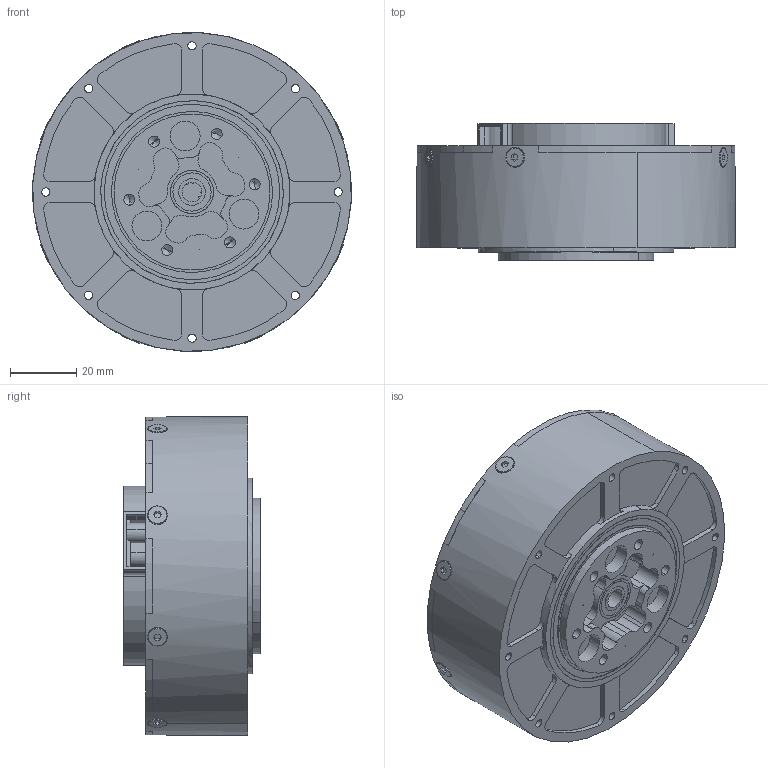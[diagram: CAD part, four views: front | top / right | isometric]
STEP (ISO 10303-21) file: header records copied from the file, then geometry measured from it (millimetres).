
FILE_DESCRIPTION (( 'STEP AP203' ), '1' );
FILE_NAME ('RMD-X8-P9-30-R.STEP', '2025-08-01T03:36:21', ( '' ), ( '' ), 'SwSTEP 2.0', 'SolidWorks 2020', '' );
FILE_SCHEMA (( 'CONFIG_CONTROL_DESIGN' ));
Length unit declared in the file: millimetre
Products named in the file (14): 8MT.391.016; 种隊D4X15; 6801-2Z P5  D12xD21x5_Default<偌樓馱>; 8MT.034.031_Default<偌樓馱>; 棠沺D9X3; 沺郋 6210; XMT.109.013_Default<偌樓馱>; 686-2Z P5  D6xD13x5_Default<偌樓馱>; 8MT.013.101-V1; XMT.102.012_Default<偌樓馱>; RMD-X8-P9-30-R; 内六角圆柱头螺丝 M4_M4x14  12.9级黑; 6709-2Z P5  D45xD55x6_Default<偌樓馱>; 内六角沉头螺丝 M3_M3x6  12.9级黑
Assembly tree (65 placements, depth 2):
  RMD-X8-P9-30-R
    XMT.109.013_Default<偌樓馱>
    沺郋 6210
    6709-2Z P5  D45xD55x6_Default<偌樓馱>  x2
    6801-2Z P5  D12xD21x5_Default<偌樓馱>
    686-2Z P5  D6xD13x5_Default<偌樓馱>
    内六角沉头螺丝 M3_M3x6  12.9级黑  x7
    种隊D4X15  x3
    内六角圆柱头螺丝 M4_M4x14  12.9级黑  x3
    棠沺D9X3
    8MT.391.016  x41
    8MT.034.031_Default<偌樓馱>
    8MT.013.101-V1
    XMT.102.012_Default<偌樓馱>  x2
Bounding box: 95.91 x 41.2 x 95.91 mm (x, y, z)
Volume: 80590.6 mm3; surface area: 98341.7 mm2
Topology: 65 solids, 65 shells, 2237 faces, 6074 edges, 4012 vertices
Faces by surface type: cylinder 1287, plane 784, bspline 98, cone 62, torus 6
Entity records: 71444 total; most frequent: CARTESIAN_POINT 25466, DIRECTION 9497, ORIENTED_EDGE 9012, EDGE_CURVE 4506, AXIS2_PLACEMENT_3D 3602, VERTEX_POINT 2988, VECTOR 2293, LINE 2293
